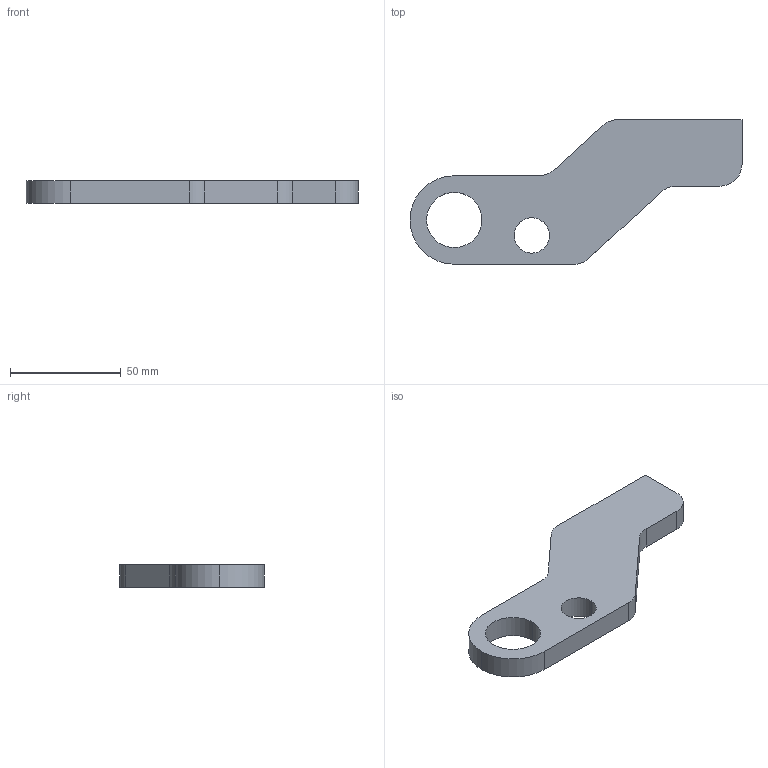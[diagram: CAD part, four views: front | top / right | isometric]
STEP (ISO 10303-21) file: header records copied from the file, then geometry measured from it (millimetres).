
FILE_DESCRIPTION (( 'STEP AP214' ), '1' );
FILE_NAME ('Halter griff.STEP', '2016-12-28T08:46:09', ( '' ), ( '' ), 'SwSTEP 2.0', 'SolidWorks 2016', '' );
FILE_SCHEMA (( 'AUTOMOTIVE_DESIGN' ));
Length unit declared in the file: millimetre
Products named in the file (1): Halter griff
Bounding box: 150 x 65.3 x 10 mm (x, y, z)
Volume: 51178.7 mm3; surface area: 15230.2 mm2
Topology: 1 solids, 1 shells, 20 faces, 54 edges, 36 vertices
Faces by surface type: cylinder 11, plane 9
Entity records: 682 total; most frequent: DIRECTION 118, CARTESIAN_POINT 111, ORIENTED_EDGE 108, EDGE_CURVE 54, AXIS2_PLACEMENT_3D 43, VERTEX_POINT 36, VECTOR 32, LINE 32
